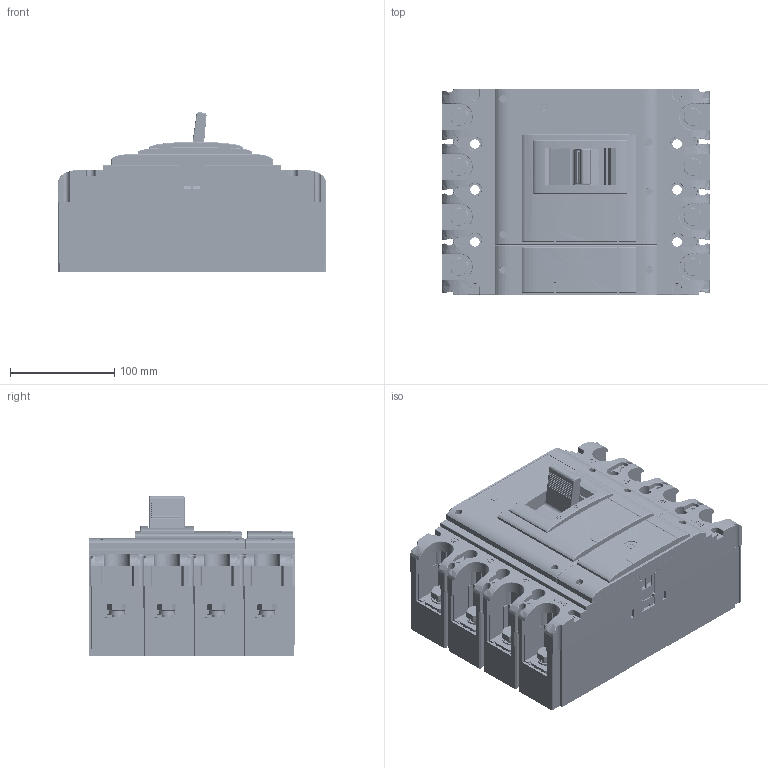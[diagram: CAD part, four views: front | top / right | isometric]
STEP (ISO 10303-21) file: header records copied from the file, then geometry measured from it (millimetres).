
FILE_DESCRIPTION((''),'2;1');
FILE_NAME('TGM1N-400-4P_ASM_ASM','2019-03-15T',('Administrator'),(''),'PRO/ENGINEER BY PARAMETRIC TECHNOLOGY CORPORATION, 2017170','PRO/ENGINEER BY PARAMETRIC TECHNOLOGY CORPORATION, 2017170','');
FILE_SCHEMA(('CONFIG_CONTROL_DESIGN'));
Products named in the file (51): 8TZD-024-1036_5_1_1; LUOMU_1_1_1; 5TZD-024-1047_ASM_3_ASM_1_ASM_1_ASM; 8TZD-232-1002_2_1_1; 8TZD-206-1024_41_1_1; 5TZD-235-1005_ASM_1_ASM_1_ASM_1_ASM; 6TZD-760-1010-1-2_ASM_21_ASM_1__ASM; 5TZD-253-1014_ASM_5_ASM_1_1; 8TZD-550-1057_1_1_1; 5TZD-552-1030_ASM_5_ASM_1_ASM_1_ASM; 8TZD-742-1082_1_1_1; 8TZD-742-1089_2_1_1; 8TZD-742-1090_2_1_1; GB_T9074_4-M4X18_6_1_1; GB_T9074_4-M4X14_6_1_1; GB_T9074_4-M4X8_6_1_1; GB_T9074_4-M5X45_6_1_1; GB_T9074_4-M4X20_6_1_1; GB_T6170-M10_2_1_1; GB_T848-10_4_1_1; GB_T93-10_4_1_1; GB_T5781-M10X35_4_1_1; 8TZD-253-1030_2_1_1; 8TZD-585-1047_2_1_1; 5TZD-505-1011_ASM_9_ASM_1_ASM_1_ASM; 8TZD-742-1116_6_1_1; GB_T6170-M3_2_1_1; GB71-M3X12_2_1_1; 8TZD-585-1051-1-5_5_1_1; 5TZD-599-1047-1-5_AF0_ASM_9_ASM_ASM; 5TZD-599-1053_AF0_ASM_7_ASM_1_A_ASM; 5TZD-599-1047-1-5_AF1_ASM_9_ASM_ASM; 5TZD-599-1053_AF1_ASM_7_ASM_1_A_ASM; 5TZD-599-1047-1-5_AF2_ASM_9_ASM_ASM; 5TZD-599-1053_AF2_ASM_7_ASM_1_A_ASM; 5TZD-599-1047-1-5_AF3_ASM_9_ASM_ASM; 5TZD-599-1053_AF3_ASM_7_ASM_1_A_ASM; 8TZD-742-1177_4_1_1; 8TZD-742-1080_4_1_1; 8TZD_315_3117_28_6_1_1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
Assembly tree (133 placements, depth 8):
  TGM1N-400-4P_ASM_ASM
    TGM1N-400-4P_ASM_ASM_1_ASM
      TGM1N-400-4P_ASM_1_ASM_1_ASM
        2TZD-259-1030_ASM_15_ASM_1_ASM__ASM
          5TZD-024-1047_ASM_3_ASM_1_ASM_1_ASM
            8TZD-024-1036_5_1_1
            LUOMU_1_1_1  x12
          6TZD-760-1010-1-2_ASM_21_ASM_1__ASM
            5TZD-235-1005_ASM_1_ASM_1_ASM_1_ASM
              8TZD-232-1002_2_1_1
              8TZD-206-1024_41_1_1
          5TZD-253-1014_ASM_5_ASM_1_1
          5TZD-552-1030_ASM_5_ASM_1_ASM_1_ASM  x4
            8TZD-550-1057_1_1_1
          8TZD-742-1082_1_1_1  x4
          8TZD-742-1089_2_1_1  x2
          8TZD-742-1090_2_1_1  x2
          GB_T9074_4-M4X18_6_1_1  x4
          GB_T9074_4-M4X14_6_1_1  x8
          GB_T9074_4-M4X8_6_1_1  x4
          GB_T9074_4-M5X45_6_1_1  x4
          GB_T9074_4-M4X20_6_1_1  x8
          GB_T6170-M10_2_1_1  x8
          GB_T848-10_4_1_1  x8
          GB_T93-10_4_1_1  x8
          GB_T5781-M10X35_4_1_1  x8
          8TZD-253-1030_2_1_1
          5TZD-505-1011_ASM_9_ASM_1_ASM_1_ASM
            8TZD-585-1047_2_1_1
          8TZD-742-1116_6_1_1
          GB_T6170-M3_2_1_1
          GB71-M3X12_2_1_1
          5TZD-599-1053_AF0_ASM_7_ASM_1_A_ASM
            5TZD-599-1047-1-5_AF0_ASM_9_ASM_ASM
              8TZD-585-1051-1-5_5_1_1
          5TZD-599-1053_AF1_ASM_7_ASM_1_A_ASM
            5TZD-599-1047-1-5_AF1_ASM_9_ASM_ASM
              8TZD-585-1051-1-5_5_1_1
          5TZD-599-1053_AF2_ASM_7_ASM_1_A_ASM
            5TZD-599-1047-1-5_AF2_ASM_9_ASM_ASM
              8TZD-585-1051-1-5_5_1_1
          5TZD-599-1053_AF3_ASM_7_ASM_1_A_ASM
            5TZD-599-1047-1-5_AF3_ASM_9_ASM_ASM
              8TZD-585-1051-1-5_5_1_1
          8TZD-585-1051-1-5_5_1_1
          8TZD-742-1177_4_1_1  x4
          8TZD-742-1080_4_1_1  x4
          5TZD_315_3057_ASM_ASM_4_ASM_1_A_ASM
            5TZD_315_3057_ASM_1_ASM_4_ASM_1_ASM
              8TZD_315_3117_28_6_1_1
              8TZD_315_3118_8_4_1_1
              8TZD_315_3113_1_ASM_4_ASM_1_ASM_ASM
                MANIFOLD_SOLID_BREP_96267_4_1_1
        8TZD_253_6003_10_1
        8TZD_550_1425_4_1  x4
Bounding box: 257 x 197.9 x 153.16 mm (x, y, z)
Volume: 4530421.5 mm3; surface area: 888293.9 mm2
Topology: 113 solids, 133 shells, 6791 faces, 18189 edges, 11792 vertices
Faces by surface type: plane 4383, cylinder 1624, cone 325, bspline 188, sphere 148, torus 103, extrusion 20
Entity records: 194106 total; most frequent: CARTESIAN_POINT 55386, ORIENTED_EDGE 29262, DIRECTION 28043, EDGE_CURVE 14631, VECTOR 10513, LINE 10493, VERTEX_POINT 9541, AXIS2_PLACEMENT_3D 8765
